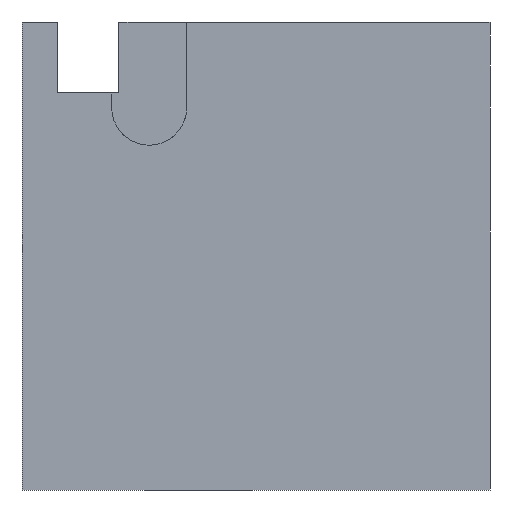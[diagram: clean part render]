
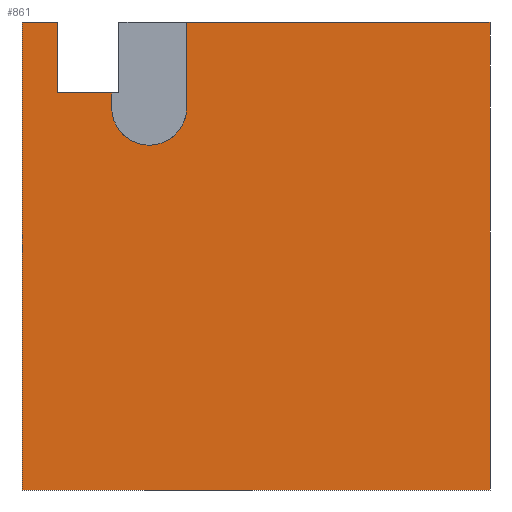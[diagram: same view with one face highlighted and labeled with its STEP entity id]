
A CAD part, front view. The second image highlights one B-rep face of the part: STEP entity #861.
In plain terms, the highlighted planar face has unit normal (0, -1, 0).
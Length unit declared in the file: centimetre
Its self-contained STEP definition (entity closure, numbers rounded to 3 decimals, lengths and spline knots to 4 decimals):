
#9 = VERTEX_POINT ( 'NONE', #978 ) ;
#10 = CARTESIAN_POINT ( 'NONE',  ( 191.6675, 0., 816.858 ) ) ;
#13 = DIRECTION ( 'NONE',  ( 0., -1., 0. ) ) ;
#15 = DIRECTION ( 'NONE',  ( 1., 0., 0. ) ) ;
#33 = EDGE_CURVE ( 'NONE', #106, #1689, #1750, .T. ) ;
#36 = LINE ( 'NONE', #46, #1329 ) ;
#46 = CARTESIAN_POINT ( 'NONE',  ( 0., 0., 1000. ) ) ;
#49 = EDGE_CURVE ( 'NONE', #1395, #1669, #1726, .T. ) ;
#52 = CARTESIAN_POINT ( 'NONE',  ( 191.6675, 0., 816.858 ) ) ;
#59 = VERTEX_POINT ( 'NONE', #1309 ) ;
#85 = DIRECTION ( 'NONE',  ( 0., 0., 1. ) ) ;
#90 = CIRCLE ( 'NONE', #1152, 80.1955 ) ;
#106 = VERTEX_POINT ( 'NONE', #1736 ) ;
#129 = VECTOR ( 'NONE', #1744, 100. ) ;
#130 = CARTESIAN_POINT ( 'NONE',  ( 1000., 0., 0. ) ) ;
#141 = CARTESIAN_POINT ( 'NONE',  ( 1000., 0., 1000. ) ) ;
#157 = LINE ( 'NONE', #10, #1017 ) ;
#197 = ORIENTED_EDGE ( 'NONE', *, *, #33, .F. ) ;
#260 = CARTESIAN_POINT ( 'NONE',  ( 0., 0., 1000. ) ) ;
#293 = EDGE_CURVE ( 'NONE', #9, #106, #343, .T. ) ;
#330 = EDGE_CURVE ( 'NONE', #1539, #1094, #36, .T. ) ;
#342 = VECTOR ( 'NONE', #735, 100. ) ;
#343 = CIRCLE ( 'NONE', #1523, 80.1955 ) ;
#355 = DIRECTION ( 'NONE',  ( 1., 0., 0. ) ) ;
#364 = ORIENTED_EDGE ( 'NONE', *, *, #1441, .F. ) ;
#404 = PLANE ( 'NONE',  #1577 ) ;
#463 = ORIENTED_EDGE ( 'NONE', *, *, #1823, .F. ) ;
#512 = ORIENTED_EDGE ( 'NONE', *, *, #1377, .F. ) ;
#541 = ORIENTED_EDGE ( 'NONE', *, *, #330, .T. ) ;
#560 = ORIENTED_EDGE ( 'NONE', *, *, #1576, .F. ) ;
#607 = LINE ( 'NONE', #881, #342 ) ;
#615 = DIRECTION ( 'NONE',  ( 0., 0., 1. ) ) ;
#643 = DIRECTION ( 'NONE',  ( 0., 0., -1. ) ) ;
#670 = DIRECTION ( 'NONE',  ( 0., 1., 0. ) ) ;
#674 = LINE ( 'NONE', #1540, #1914 ) ;
#735 = DIRECTION ( 'NONE',  ( 1., 0., 0. ) ) ;
#760 = CARTESIAN_POINT ( 'NONE',  ( 0., 0., 0. ) ) ;
#771 = DIRECTION ( 'NONE',  ( 0., 0., 1. ) ) ;
#861 = ADVANCED_FACE ( 'NONE', ( #1109 ), #404, .F. ) ;
#881 = CARTESIAN_POINT ( 'NONE',  ( 74.9793, 0., 848.35 ) ) ;
#931 = VECTOR ( 'NONE', #1344, 100. ) ;
#964 = ORIENTED_EDGE ( 'NONE', *, *, #1520, .F. ) ;
#973 = CARTESIAN_POINT ( 'NONE',  ( 0., 0., 1000. ) ) ;
#978 = CARTESIAN_POINT ( 'NONE',  ( 271.863, 0., 736.6625 ) ) ;
#1007 = CARTESIAN_POINT ( 'NONE',  ( 1000., 0., 1000. ) ) ;
#1017 = VECTOR ( 'NONE', #1779, 100. ) ;
#1047 = ORIENTED_EDGE ( 'NONE', *, *, #49, .F. ) ;
#1062 = CARTESIAN_POINT ( 'NONE',  ( 0., 0., 0. ) ) ;
#1072 = ORIENTED_EDGE ( 'NONE', *, *, #1364, .T. ) ;
#1073 = CARTESIAN_POINT ( 'NONE',  ( 74.9793, 0., 848.35 ) ) ;
#1094 = VERTEX_POINT ( 'NONE', #1062 ) ;
#1109 = FACE_OUTER_BOUND ( 'NONE', #1119, .T. ) ;
#1119 = EDGE_LOOP ( 'NONE', ( #463, #964, #560, #541, #1072, #1047, #1528, #197, #1295, #512, #364 ) ) ;
#1152 = AXIS2_PLACEMENT_3D ( 'NONE', #1508, #1333, #771 ) ;
#1193 = LINE ( 'NONE', #1349, #1554 ) ;
#1208 = VECTOR ( 'NONE', #355, 100. ) ;
#1230 = LINE ( 'NONE', #760, #931 ) ;
#1278 = CARTESIAN_POINT ( 'NONE',  ( 352.0585, 0., 1000. ) ) ;
#1295 = ORIENTED_EDGE ( 'NONE', *, *, #293, .F. ) ;
#1299 = CARTESIAN_POINT ( 'NONE',  ( 352.0585, 0., 1000. ) ) ;
#1309 = CARTESIAN_POINT ( 'NONE',  ( 74.9793, 0., 1000. ) ) ;
#1329 = VECTOR ( 'NONE', #1784, 100. ) ;
#1333 = DIRECTION ( 'NONE',  ( 0., -1., 0. ) ) ;
#1344 = DIRECTION ( 'NONE',  ( 1., 0., 0. ) ) ;
#1349 = CARTESIAN_POINT ( 'NONE',  ( 0., 0., 1000. ) ) ;
#1364 = EDGE_CURVE ( 'NONE', #1094, #1669, #1230, .T. ) ;
#1377 = EDGE_CURVE ( 'NONE', #1515, #9, #90, .T. ) ;
#1380 = CARTESIAN_POINT ( 'NONE',  ( 271.863, 0., 816.858 ) ) ;
#1383 = VERTEX_POINT ( 'NONE', #1073 ) ;
#1395 = VERTEX_POINT ( 'NONE', #141 ) ;
#1396 = CARTESIAN_POINT ( 'NONE',  ( 0., 0., 1000. ) ) ;
#1441 = EDGE_CURVE ( 'NONE', #1646, #1515, #157, .T. ) ;
#1508 = CARTESIAN_POINT ( 'NONE',  ( 271.863, 0., 816.858 ) ) ;
#1515 = VERTEX_POINT ( 'NONE', #52 ) ;
#1520 = EDGE_CURVE ( 'NONE', #59, #1383, #674, .T. ) ;
#1523 = AXIS2_PLACEMENT_3D ( 'NONE', #1380, #13, #615 ) ;
#1528 = ORIENTED_EDGE ( 'NONE', *, *, #1883, .F. ) ;
#1539 = VERTEX_POINT ( 'NONE', #973 ) ;
#1540 = CARTESIAN_POINT ( 'NONE',  ( 74.9793, 0., 848.35 ) ) ;
#1554 = VECTOR ( 'NONE', #15, 100. ) ;
#1576 = EDGE_CURVE ( 'NONE', #1539, #59, #1686, .T. ) ;
#1577 = AXIS2_PLACEMENT_3D ( 'NONE', #260, #670, #85 ) ;
#1592 = VECTOR ( 'NONE', #1903, 100. ) ;
#1614 = CARTESIAN_POINT ( 'NONE',  ( 191.6675, 0., 848.35 ) ) ;
#1646 = VERTEX_POINT ( 'NONE', #1614 ) ;
#1669 = VERTEX_POINT ( 'NONE', #130 ) ;
#1686 = LINE ( 'NONE', #1396, #1208 ) ;
#1689 = VERTEX_POINT ( 'NONE', #1278 ) ;
#1726 = LINE ( 'NONE', #1007, #1592 ) ;
#1736 = CARTESIAN_POINT ( 'NONE',  ( 352.0585, 0., 816.858 ) ) ;
#1744 = DIRECTION ( 'NONE',  ( 0., 0., 1. ) ) ;
#1750 = LINE ( 'NONE', #1299, #129 ) ;
#1779 = DIRECTION ( 'NONE',  ( 0., 0., -1. ) ) ;
#1784 = DIRECTION ( 'NONE',  ( 0., 0., -1. ) ) ;
#1823 = EDGE_CURVE ( 'NONE', #1383, #1646, #607, .T. ) ;
#1883 = EDGE_CURVE ( 'NONE', #1689, #1395, #1193, .T. ) ;
#1903 = DIRECTION ( 'NONE',  ( 0., 0., -1. ) ) ;
#1914 = VECTOR ( 'NONE', #643, 100. ) ;
